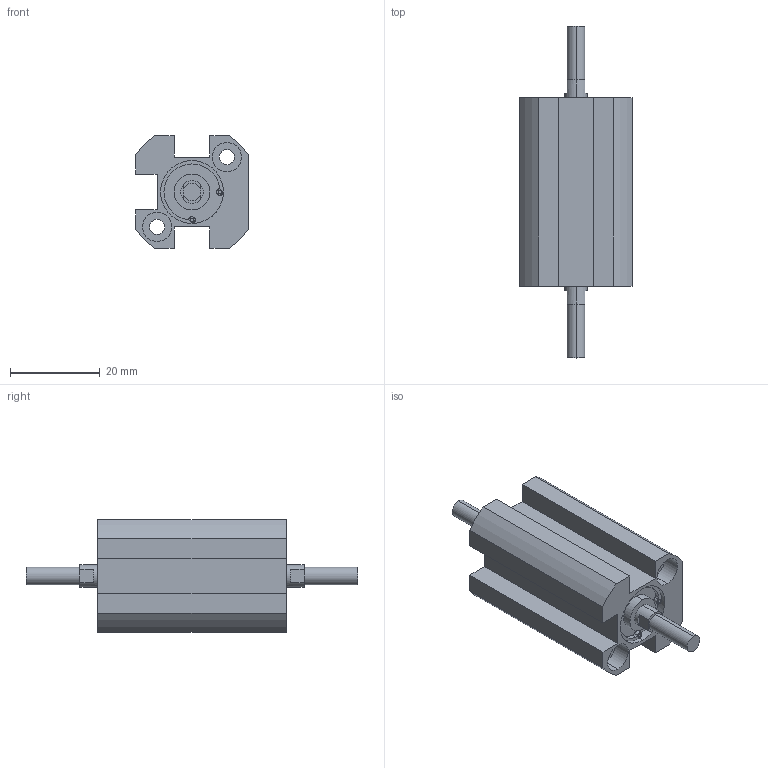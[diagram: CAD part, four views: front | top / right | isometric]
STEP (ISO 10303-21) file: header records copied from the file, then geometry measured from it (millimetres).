
FILE_DESCRIPTION (( 'STEP AP203' ), '1' );
FILE_NAME ('XG#M7-10-10.STEP', '2016-05-24T02:21:14', ( '' ), ( '' ), 'SwSTEP 2.0', 'SolidWorks 2014', '' );
FILE_SCHEMA (( 'CONFIG_CONTROL_DESIGN' ));
Length unit declared in the file: millimetre
Products named in the file (1): XG#M7-10-10
Bounding box: 25 x 74 x 25 mm (x, y, z)
Volume: 18801.6 mm3; surface area: 8004.2 mm2
Topology: 1 solids, 1 shells, 108 faces, 266 edges, 172 vertices
Faces by surface type: cylinder 58, plane 46, cone 4
Entity records: 3297 total; most frequent: DIRECTION 610, CARTESIAN_POINT 543, ORIENTED_EDGE 524, EDGE_CURVE 262, AXIS2_PLACEMENT_3D 239, VERTEX_POINT 172, VECTOR 132, LINE 132
